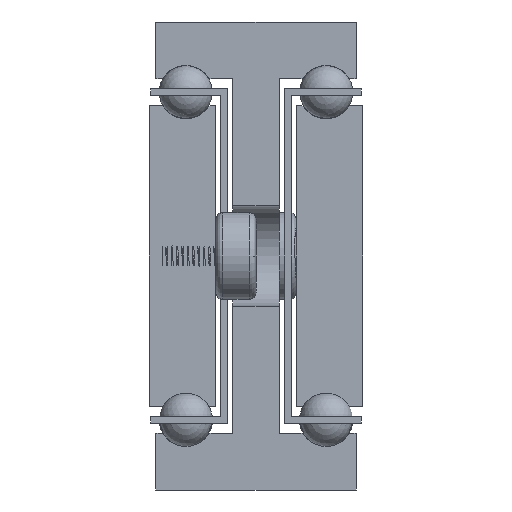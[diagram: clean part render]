
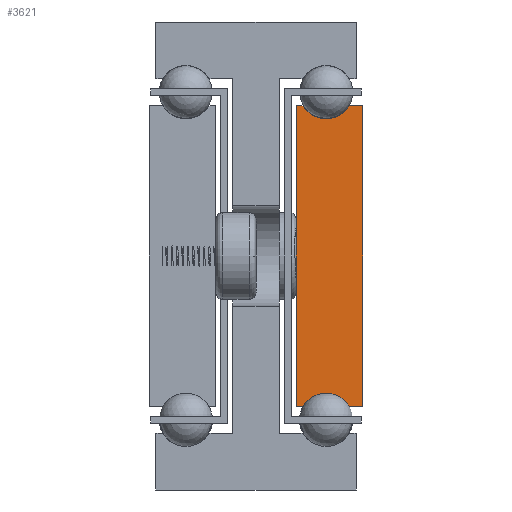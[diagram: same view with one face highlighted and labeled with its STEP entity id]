
A CAD part, front view. The second image highlights one B-rep face of the part: STEP entity #3621.
In plain terms, the highlighted planar face has unit normal (0, -1, 0).
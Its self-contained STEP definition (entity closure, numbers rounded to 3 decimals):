
#381=CIRCLE('',#3904,4.);
#382=CIRCLE('',#3908,4.);
#685=FACE_OUTER_BOUND('',#931,.T.);
#931=EDGE_LOOP('',(#2776,#2777,#2778,#2779,#2780,#2781,#2782,#2783));
#1429=LINE('',#5614,#1641);
#1431=LINE('',#5618,#1643);
#1434=LINE('',#5624,#1646);
#1435=LINE('',#5626,#1647);
#1436=LINE('',#5630,#1648);
#1437=LINE('',#5631,#1649);
#1641=VECTOR('',#4481,1.);
#1643=VECTOR('',#4485,1.);
#1646=VECTOR('',#4490,1.);
#1647=VECTOR('',#4491,1.);
#1648=VECTOR('',#4494,1.);
#1649=VECTOR('',#4495,1.);
#1834=VERTEX_POINT('',#5602);
#1837=VERTEX_POINT('',#5607);
#1839=VERTEX_POINT('',#5612);
#1840=VERTEX_POINT('',#5617);
#1842=VERTEX_POINT('',#5623);
#1843=VERTEX_POINT('',#5625);
#1844=VERTEX_POINT('',#5627);
#1845=VERTEX_POINT('',#5629);
#2239=EDGE_CURVE('',#1834,#1837,#381,.T.);
#2241=EDGE_CURVE('',#1837,#1839,#1429,.T.);
#2243=EDGE_CURVE('',#1840,#1834,#1431,.T.);
#2246=EDGE_CURVE('',#1839,#1842,#1434,.T.);
#2247=EDGE_CURVE('',#1842,#1843,#1435,.T.);
#2248=EDGE_CURVE('',#1843,#1844,#382,.T.);
#2249=EDGE_CURVE('',#1844,#1845,#1436,.T.);
#2250=EDGE_CURVE('',#1845,#1840,#1437,.T.);
#2776=ORIENTED_EDGE('',*,*,#2243,.T.);
#2777=ORIENTED_EDGE('',*,*,#2239,.T.);
#2778=ORIENTED_EDGE('',*,*,#2241,.T.);
#2779=ORIENTED_EDGE('',*,*,#2246,.T.);
#2780=ORIENTED_EDGE('',*,*,#2247,.T.);
#2781=ORIENTED_EDGE('',*,*,#2248,.T.);
#2782=ORIENTED_EDGE('',*,*,#2249,.T.);
#2783=ORIENTED_EDGE('',*,*,#2250,.T.);
#3510=PLANE('',#3907);
#3621=ADVANCED_FACE('',(#685),#3510,.T.);
#3904=AXIS2_PLACEMENT_3D('',#5609,#4476,#4477);
#3907=AXIS2_PLACEMENT_3D('',#5622,#4488,#4489);
#3908=AXIS2_PLACEMENT_3D('',#5628,#4492,#4493);
#4476=DIRECTION('center_axis',(0.,1.,0.));
#4477=DIRECTION('ref_axis',(-0.866,0.,0.5));
#4481=DIRECTION('',(1.,0.,0.));
#4485=DIRECTION('',(1.,0.,0.));
#4488=DIRECTION('center_axis',(0.,-1.,0.));
#4489=DIRECTION('ref_axis',(-1.,0.,0.));
#4490=DIRECTION('',(0.,0.,1.));
#4491=DIRECTION('',(-1.,0.,0.));
#4492=DIRECTION('center_axis',(0.,1.,0.));
#4493=DIRECTION('ref_axis',(0.866,0.,-0.5));
#4494=DIRECTION('',(-1.,0.,0.));
#4495=DIRECTION('',(0.,0.,-1.));
#5602=CARTESIAN_POINT('',(-1706.934,-226.871,327.5));
#5607=CARTESIAN_POINT('',(-1700.006,-226.871,327.5));
#5609=CARTESIAN_POINT('Origin',(-1703.47,-226.871,325.5));
#5612=CARTESIAN_POINT('',(-1697.97,-226.871,327.5));
#5614=CARTESIAN_POINT('',(-1700.006,-226.871,327.5));
#5617=CARTESIAN_POINT('',(-1707.97,-226.871,327.5));
#5618=CARTESIAN_POINT('',(-1707.97,-226.871,327.5));
#5622=CARTESIAN_POINT('Origin',(-1702.964,-226.871,350.));
#5623=CARTESIAN_POINT('',(-1697.97,-226.871,372.5));
#5624=CARTESIAN_POINT('',(-1697.97,-226.871,327.5));
#5625=CARTESIAN_POINT('',(-1700.006,-226.871,372.5));
#5626=CARTESIAN_POINT('',(-1697.97,-226.871,372.5));
#5627=CARTESIAN_POINT('',(-1706.934,-226.871,372.5));
#5628=CARTESIAN_POINT('Origin',(-1703.47,-226.871,374.5));
#5629=CARTESIAN_POINT('',(-1707.97,-226.871,372.5));
#5630=CARTESIAN_POINT('',(-1706.934,-226.871,372.5));
#5631=CARTESIAN_POINT('',(-1707.97,-226.871,372.5));
